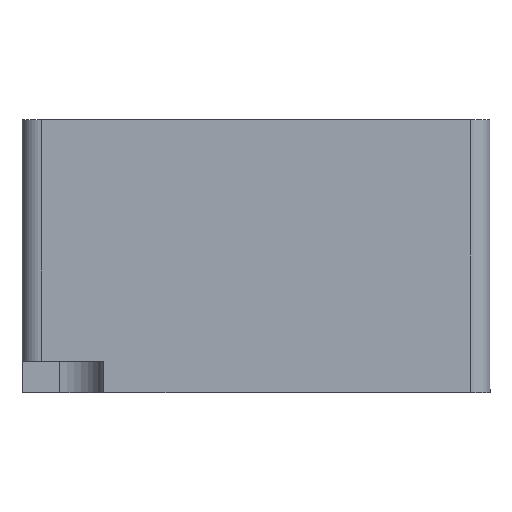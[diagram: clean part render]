
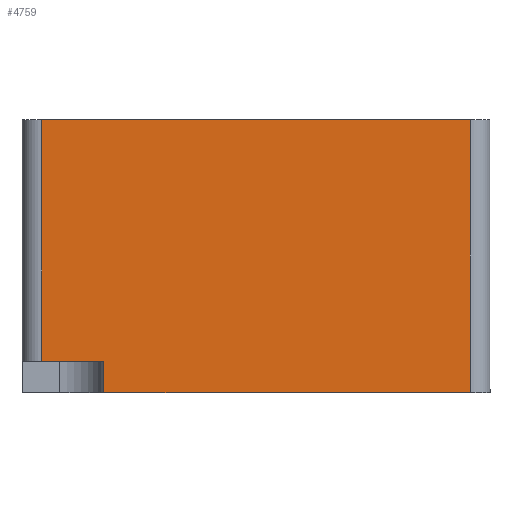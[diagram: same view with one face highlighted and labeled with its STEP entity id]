
A CAD part, left-side view. The second image highlights one B-rep face of the part: STEP entity #4759.
In plain terms, the highlighted planar face has unit normal (-1, 0, 0).
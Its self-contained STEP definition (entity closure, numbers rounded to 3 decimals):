
#141 = EDGE_CURVE ( 'NONE', #1982, #5662, #567, .T. ) ;
#201 = FACE_OUTER_BOUND ( 'NONE', #551, .T. ) ;
#432 = ORIENTED_EDGE ( 'NONE', *, *, #5474, .F. ) ;
#551 = EDGE_LOOP ( 'NONE', ( #2313, #653, #1187, #3997, #5678, #432 ) ) ;
#567 = LINE ( 'NONE', #5838, #5300 ) ;
#616 = CARTESIAN_POINT ( 'NONE',  ( 31.737, -10.871, -7. ) ) ;
#653 = ORIENTED_EDGE ( 'NONE', *, *, #4825, .F. ) ;
#729 = CARTESIAN_POINT ( 'NONE',  ( 31.737, 0.129, -5.4 ) ) ;
#741 = VERTEX_POINT ( 'NONE', #1962 ) ;
#770 = LINE ( 'NONE', #729, #4273 ) ;
#880 = LINE ( 'NONE', #1411, #1033 ) ;
#937 = VERTEX_POINT ( 'NONE', #4337 ) ;
#1033 = VECTOR ( 'NONE', #3771, 1000. ) ;
#1085 = CARTESIAN_POINT ( 'NONE',  ( 31.737, 7.929, -7. ) ) ;
#1173 = EDGE_CURVE ( 'NONE', #1237, #741, #1711, .T. ) ;
#1187 = ORIENTED_EDGE ( 'NONE', *, *, #3426, .T. ) ;
#1237 = VERTEX_POINT ( 'NONE', #3234 ) ;
#1411 = CARTESIAN_POINT ( 'NONE',  ( 31.737, -10.871, 5. ) ) ;
#1566 = LINE ( 'NONE', #3340, #2497 ) ;
#1576 = DIRECTION ( 'NONE',  ( 1., 0., 0. ) ) ;
#1670 = CARTESIAN_POINT ( 'NONE',  ( 31.737, 11.129, -7. ) ) ;
#1711 = LINE ( 'NONE', #1758, #3347 ) ;
#1758 = CARTESIAN_POINT ( 'NONE',  ( 31.737, 11.129, 7. ) ) ;
#1962 = CARTESIAN_POINT ( 'NONE',  ( 31.737, -10.871, 7. ) ) ;
#1977 = VERTEX_POINT ( 'NONE', #616 ) ;
#1982 = VERTEX_POINT ( 'NONE', #1085 ) ;
#1987 = EDGE_CURVE ( 'NONE', #1237, #937, #1566, .T. ) ;
#2061 = DIRECTION ( 'NONE',  ( 0., 1., 0. ) ) ;
#2181 = DIRECTION ( 'NONE',  ( 0., 0., 1. ) ) ;
#2313 = ORIENTED_EDGE ( 'NONE', *, *, #141, .F. ) ;
#2497 = VECTOR ( 'NONE', #4708, 1000. ) ;
#2682 = DIRECTION ( 'NONE',  ( 0., 1., 0. ) ) ;
#3012 = LINE ( 'NONE', #1670, #3140 ) ;
#3140 = VECTOR ( 'NONE', #5339, 1000. ) ;
#3147 = DIRECTION ( 'NONE',  ( 0., -1., 0. ) ) ;
#3234 = CARTESIAN_POINT ( 'NONE',  ( 31.737, 11.129, 7. ) ) ;
#3340 = CARTESIAN_POINT ( 'NONE',  ( 31.737, 11.129, -6. ) ) ;
#3347 = VECTOR ( 'NONE', #3147, 1000. ) ;
#3426 = EDGE_CURVE ( 'NONE', #1977, #741, #880, .T. ) ;
#3427 = PLANE ( 'NONE',  #4006 ) ;
#3771 = DIRECTION ( 'NONE',  ( 0., 0., 1. ) ) ;
#3997 = ORIENTED_EDGE ( 'NONE', *, *, #1173, .F. ) ;
#4006 = AXIS2_PLACEMENT_3D ( 'NONE', #5225, #1576, #2061 ) ;
#4273 = VECTOR ( 'NONE', #2682, 1000. ) ;
#4337 = CARTESIAN_POINT ( 'NONE',  ( 31.737, 11.129, -5.4 ) ) ;
#4708 = DIRECTION ( 'NONE',  ( 0., 0., -1. ) ) ;
#4759 = ADVANCED_FACE ( 'NONE', ( #201 ), #3427, .F. ) ;
#4825 = EDGE_CURVE ( 'NONE', #1977, #1982, #3012, .T. ) ;
#5225 = CARTESIAN_POINT ( 'NONE',  ( 31.737, 0.129, 5. ) ) ;
#5300 = VECTOR ( 'NONE', #2181, 1000. ) ;
#5339 = DIRECTION ( 'NONE',  ( 0., 1., 0. ) ) ;
#5474 = EDGE_CURVE ( 'NONE', #5662, #937, #770, .T. ) ;
#5511 = CARTESIAN_POINT ( 'NONE',  ( 31.737, 7.929, -5.4 ) ) ;
#5662 = VERTEX_POINT ( 'NONE', #5511 ) ;
#5678 = ORIENTED_EDGE ( 'NONE', *, *, #1987, .T. ) ;
#5838 = CARTESIAN_POINT ( 'NONE',  ( 31.737, 7.929, 5. ) ) ;
